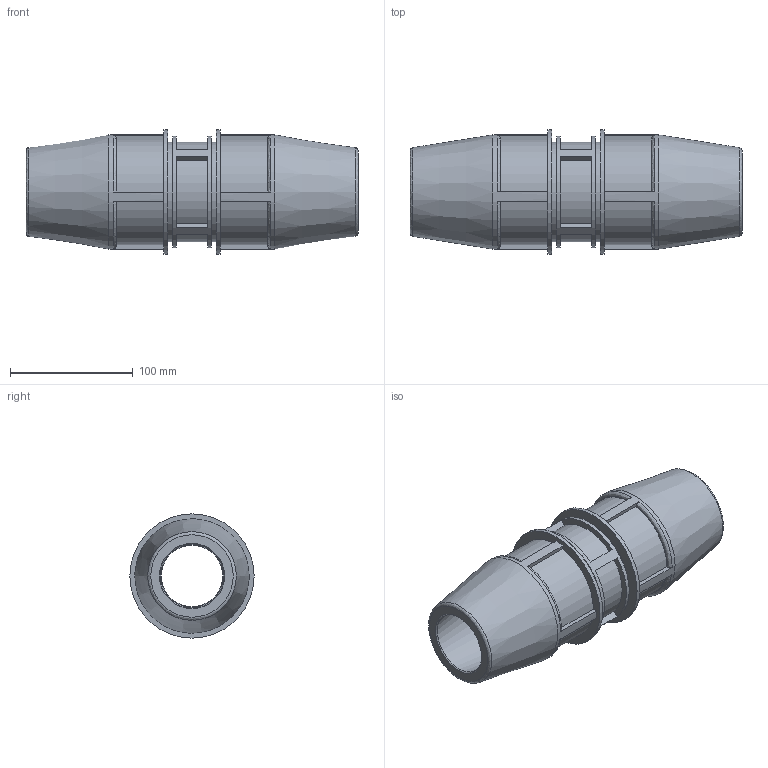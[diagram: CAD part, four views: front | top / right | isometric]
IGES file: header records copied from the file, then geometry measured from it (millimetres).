
Global section: file name: 176100048051_196100048051.ipt; native system: Autodesk Inventor 2015; preprocessor: unknown; author: KIM; date: 20180211.125801; units: millimetre
Bounding box: 270 x 101 x 101 mm (x, y, z)
Volume: 892493.3 mm3; surface area: 144682.8 mm2
Topology: 1 solids, 1 shells, 86 faces, 221 edges, 148 vertices
Faces by surface type: plane 50, cylinder 19, revolution 15, cone 2
Full cylindrical faces by diameter (mm): 80.8 x2, 90.9 x1, 92.92 x2, 101 x2
